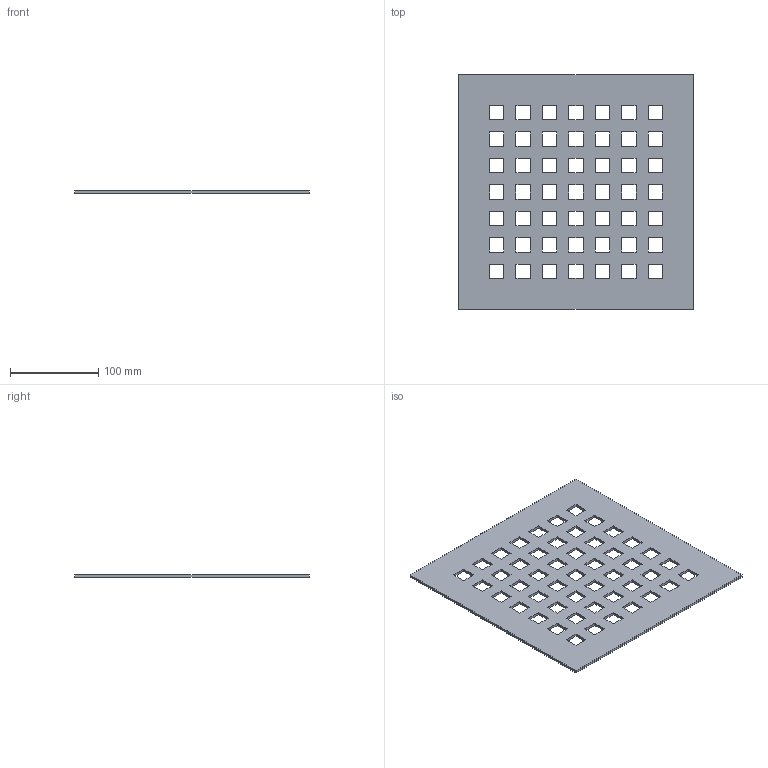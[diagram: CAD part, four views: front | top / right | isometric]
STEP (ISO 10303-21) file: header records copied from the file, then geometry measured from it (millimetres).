
FILE_DESCRIPTION(('Open CASCADE Model'),'2;1');
FILE_NAME('Open CASCADE Shape Model','2026-10-10T15:34:57',('Author'),( 'Open CASCADE'),'Open CASCADE STEP processor 7.9','Open CASCADE 7.9' ,'Unknown');
FILE_SCHEMA(('AUTOMOTIVE_DESIGN { 1 0 10303 214 1 1 1 1 }'));
Length unit declared in the file: millimetre
Products named in the file (1): Open CASCADE STEP translator 7.9 4
Bounding box: 266 x 266 x 3 mm (x, y, z)
Volume: 174636 mm3; surface area: 129024 mm2
Topology: 1 solids, 1 shells, 202 faces, 600 edges, 400 vertices
Faces by surface type: plane 202
Entity records: 13846 total; most frequent: CARTESIAN_POINT 3187, DIRECTION 1422, ORIENTED_EDGE 1200, PCURVE 1200, DEFINITIONAL_REPRESENTATION 1200, LINE 1016, VECTOR 1016, B_SPLINE_CURVE_WITH_KNOTS 784
